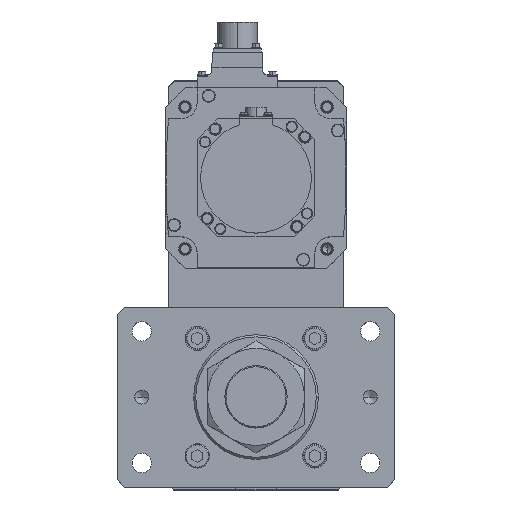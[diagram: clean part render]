
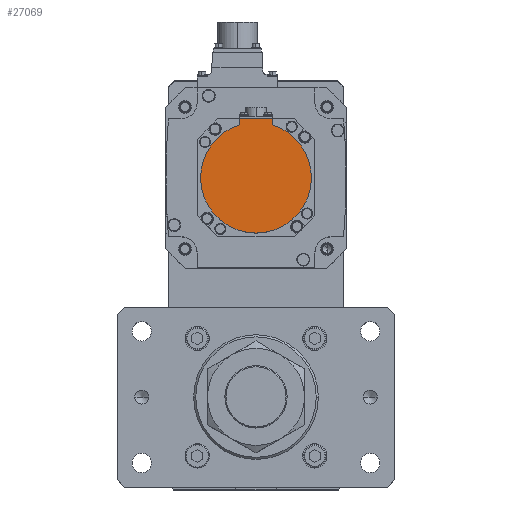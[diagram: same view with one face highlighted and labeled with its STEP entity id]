
A CAD part, top view. The second image highlights one B-rep face of the part: STEP entity #27069.
In plain terms, the highlighted planar face has unit normal (0, 0, 1) as drawn and (0, 0, -1) by its records, which use the part's own axes.
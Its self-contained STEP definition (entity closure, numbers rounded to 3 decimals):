
#2044 = VERTEX_POINT ( 'NONE', #28463 ) ;
#2547 = EDGE_CURVE ( 'NONE', #32275, #31292, #14012, .T. ) ;
#2713 = CARTESIAN_POINT ( 'NONE',  ( 0., 0., -146.5 ) ) ;
#3014 = EDGE_CURVE ( 'NONE', #2044, #20759, #19059, .T. ) ;
#3360 = AXIS2_PLACEMENT_3D ( 'NONE', #11930, #14255, #27685 ) ;
#4851 = LINE ( 'NONE', #28340, #25306 ) ;
#4876 = VERTEX_POINT ( 'NONE', #14136 ) ;
#5365 = CARTESIAN_POINT ( 'NONE',  ( -12., -38.158, -146.5 ) ) ;
#5601 = CIRCLE ( 'NONE', #33827, 40. ) ;
#6161 = CARTESIAN_POINT ( 'NONE',  ( 0., -1.249, -146.5 ) ) ;
#7608 = CARTESIAN_POINT ( 'NONE',  ( 0., -42.5, -146.5 ) ) ;
#8161 = DIRECTION ( 'NONE',  ( 0., 0., 1. ) ) ;
#8681 = EDGE_LOOP ( 'NONE', ( #22775, #29415, #19989, #23223, #33431, #14984 ) ) ;
#9836 = CIRCLE ( 'NONE', #3360, 40. ) ;
#10713 = DIRECTION ( 'NONE',  ( 1., 0., 0. ) ) ;
#11815 = DIRECTION ( 'NONE',  ( 0., 0., 1. ) ) ;
#11930 = CARTESIAN_POINT ( 'NONE',  ( 0., 0., -146.5 ) ) ;
#13165 = LINE ( 'NONE', #7608, #27006 ) ;
#14012 = CIRCLE ( 'NONE', #31303, 40. ) ;
#14136 = CARTESIAN_POINT ( 'NONE',  ( -12., -42.5, -146.5 ) ) ;
#14255 = DIRECTION ( 'NONE',  ( 0., 0., 1. ) ) ;
#14264 = DIRECTION ( 'NONE',  ( 1., 0., 0. ) ) ;
#14513 = PLANE ( 'NONE',  #28594 ) ;
#14984 = ORIENTED_EDGE ( 'NONE', *, *, #27333, .T. ) ;
#15307 = DIRECTION ( 'NONE',  ( 0., 1., 0. ) ) ;
#16152 = FACE_OUTER_BOUND ( 'NONE', #8681, .T. ) ;
#18147 = VECTOR ( 'NONE', #15307, 1000. ) ;
#18749 = CARTESIAN_POINT ( 'NONE',  ( 40., 0., -146.5 ) ) ;
#19059 = LINE ( 'NONE', #34130, #18147 ) ;
#19989 = ORIENTED_EDGE ( 'NONE', *, *, #34372, .F. ) ;
#20345 = VERTEX_POINT ( 'NONE', #18749 ) ;
#20428 = DIRECTION ( 'NONE',  ( 0., 1., 0. ) ) ;
#20539 = CARTESIAN_POINT ( 'NONE',  ( -40., 0., -146.5 ) ) ;
#20561 = CARTESIAN_POINT ( 'NONE',  ( 12., -38.158, -146.5 ) ) ;
#20661 = EDGE_CURVE ( 'NONE', #20759, #20345, #5601, .T. ) ;
#20759 = VERTEX_POINT ( 'NONE', #20561 ) ;
#22775 = ORIENTED_EDGE ( 'NONE', *, *, #27811, .T. ) ;
#23223 = ORIENTED_EDGE ( 'NONE', *, *, #20661, .F. ) ;
#25306 = VECTOR ( 'NONE', #20428, 1000. ) ;
#26166 = DIRECTION ( 'NONE',  ( -1., 0., 0. ) ) ;
#27006 = VECTOR ( 'NONE', #26166, 1000. ) ;
#27069 = ADVANCED_FACE ( 'NONE', ( #16152 ), #14513, .F. ) ;
#27333 = EDGE_CURVE ( 'NONE', #2044, #4876, #13165, .T. ) ;
#27685 = DIRECTION ( 'NONE',  ( 1., 0., 0. ) ) ;
#27811 = EDGE_CURVE ( 'NONE', #4876, #31292, #4851, .T. ) ;
#27917 = DIRECTION ( 'NONE',  ( 0., 0., 1. ) ) ;
#28012 = CARTESIAN_POINT ( 'NONE',  ( 0., 0., -146.5 ) ) ;
#28340 = CARTESIAN_POINT ( 'NONE',  ( -12., -40.329, -146.5 ) ) ;
#28463 = CARTESIAN_POINT ( 'NONE',  ( 12., -42.5, -146.5 ) ) ;
#28594 = AXIS2_PLACEMENT_3D ( 'NONE', #6161, #11815, #14264 ) ;
#29415 = ORIENTED_EDGE ( 'NONE', *, *, #2547, .F. ) ;
#31292 = VERTEX_POINT ( 'NONE', #5365 ) ;
#31303 = AXIS2_PLACEMENT_3D ( 'NONE', #2713, #8161, #10713 ) ;
#32275 = VERTEX_POINT ( 'NONE', #20539 ) ;
#33429 = DIRECTION ( 'NONE',  ( 1., 0., 0. ) ) ;
#33431 = ORIENTED_EDGE ( 'NONE', *, *, #3014, .F. ) ;
#33827 = AXIS2_PLACEMENT_3D ( 'NONE', #28012, #27917, #33429 ) ;
#34130 = CARTESIAN_POINT ( 'NONE',  ( 12., -1.249, -146.5 ) ) ;
#34372 = EDGE_CURVE ( 'NONE', #20345, #32275, #9836, .T. ) ;
